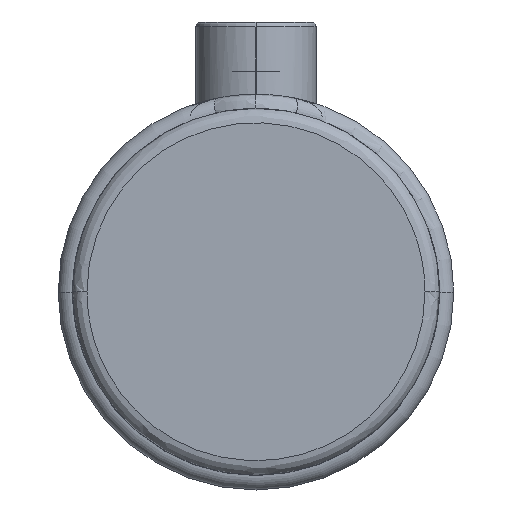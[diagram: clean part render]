
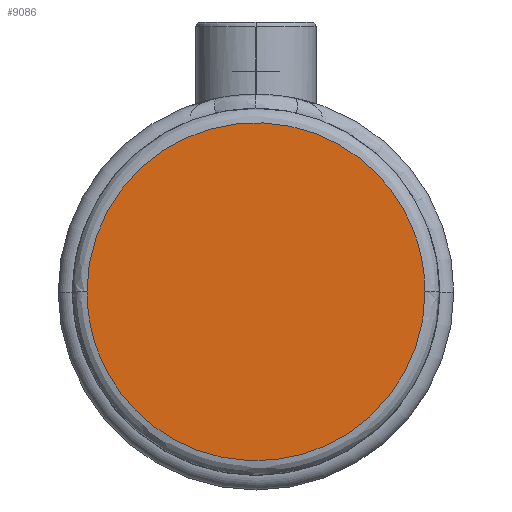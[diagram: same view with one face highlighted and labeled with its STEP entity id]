
A CAD part, top view. The second image highlights one B-rep face of the part: STEP entity #9086.
In plain terms, the highlighted planar face has unit normal (0, 0, 1).
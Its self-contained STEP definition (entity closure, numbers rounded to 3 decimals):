
#550 = CARTESIAN_POINT ( 'NONE',  ( 35.1, 0., 50. ) ) ;
#1460 = CARTESIAN_POINT ( 'NONE',  ( 35.1, -70.2, 50. ) ) ;
#1475 = EDGE_CURVE ( 'NONE', #10622, #4869, #9561, .T. ) ;
#1745 = EDGE_LOOP ( 'NONE', ( #3460, #3471 ) ) ;
#2295 = CARTESIAN_POINT ( 'NONE',  ( -35.1, -70.2, 50. ) ) ;
#2528 = DIRECTION ( 'NONE',  ( 1., 0., 0. ) ) ;
#3460 = ORIENTED_EDGE ( 'NONE', *, *, #1475, .F. ) ;
#3471 = ORIENTED_EDGE ( 'NONE', *, *, #4901, .F. ) ;
#3902 = CARTESIAN_POINT ( 'NONE',  ( -35.1, 0., 50. ) ) ;
#4743 = CARTESIAN_POINT ( 'NONE',  ( -35.1, 70.2, 50. ) ) ;
#4869 = VERTEX_POINT ( 'NONE', #9134 ) ;
#4901 = EDGE_CURVE ( 'NONE', #4869, #10622, #6729, .T. ) ;
#5578 = CARTESIAN_POINT ( 'NONE',  ( 35.1, 70.2, 50. ) ) ;
#6729 =( BOUNDED_CURVE ( )  B_SPLINE_CURVE ( 3, ( #3902, #4743, #5578, #550 ),
 .UNSPECIFIED., .F., .F. ) 
 B_SPLINE_CURVE_WITH_KNOTS ( ( 4, 4 ),
 ( 0.75, 1.25 ),
 .UNSPECIFIED. ) 
 CURVE ( )  GEOMETRIC_REPRESENTATION_ITEM ( )  RATIONAL_B_SPLINE_CURVE ( ( 1., 0.333, 0.333, 1. ) ) 
 REPRESENTATION_ITEM ( '' )  );
#7378 = CARTESIAN_POINT ( 'NONE',  ( 35.1, 0., 50. ) ) ;
#7552 = PLANE ( 'NONE',  #10162 ) ;
#7584 = DIRECTION ( 'NONE',  ( 0., 0., 1. ) ) ;
#8180 = FACE_OUTER_BOUND ( 'NONE', #1745, .T. ) ;
#8241 = CARTESIAN_POINT ( 'NONE',  ( -35.1, 0., 50. ) ) ;
#8693 = CARTESIAN_POINT ( 'NONE',  ( 35.1, 0., 50. ) ) ;
#9086 = ADVANCED_FACE ( 'NONE', ( #8180 ), #7552, .T. ) ;
#9134 = CARTESIAN_POINT ( 'NONE',  ( -35.1, 0., 50. ) ) ;
#9262 = CARTESIAN_POINT ( 'NONE',  ( 0., 19.05, 50. ) ) ;
#9561 =( BOUNDED_CURVE ( )  B_SPLINE_CURVE ( 3, ( #7378, #1460, #2295, #8241 ),
 .UNSPECIFIED., .F., .F. ) 
 B_SPLINE_CURVE_WITH_KNOTS ( ( 4, 4 ),
 ( 0.25, 0.75 ),
 .UNSPECIFIED. ) 
 CURVE ( )  GEOMETRIC_REPRESENTATION_ITEM ( )  RATIONAL_B_SPLINE_CURVE ( ( 1., 0.333, 0.333, 1. ) ) 
 REPRESENTATION_ITEM ( '' )  );
#10162 = AXIS2_PLACEMENT_3D ( 'NONE', #9262, #7584, #2528 ) ;
#10622 = VERTEX_POINT ( 'NONE', #8693 ) ;
